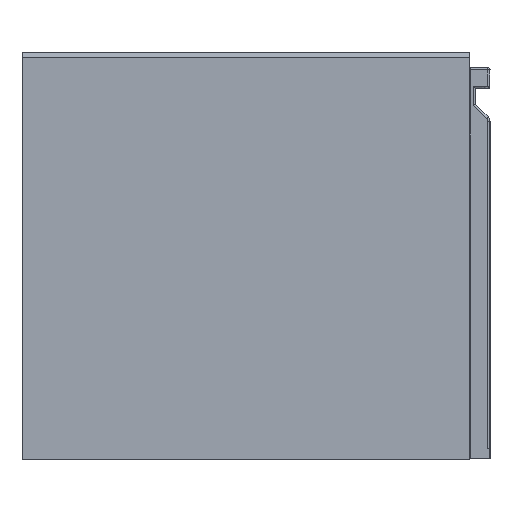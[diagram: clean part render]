
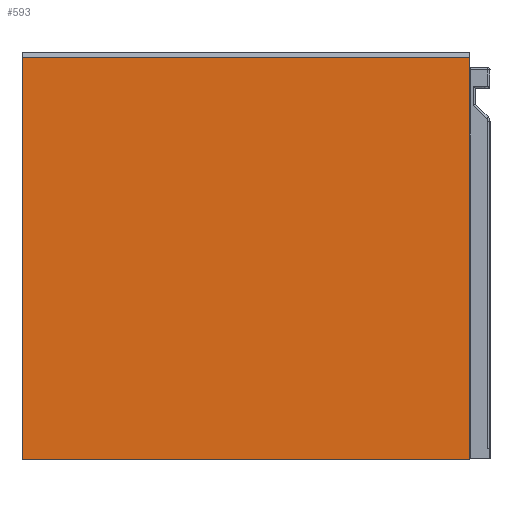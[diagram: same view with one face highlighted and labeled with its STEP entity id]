
A CAD part, left-side view. The second image highlights one B-rep face of the part: STEP entity #593.
In plain terms, the highlighted planar face has unit normal (-1, 0, 0).
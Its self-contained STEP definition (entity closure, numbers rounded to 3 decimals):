
#593=ADVANCED_FACE('',(#1452),#14527,.T.);
#1452=FACE_OUTER_BOUND('',#2311,.T.);
#2311=EDGE_LOOP('',(#3319,#3320,#3321,#3322));
#3319=ORIENTED_EDGE('',*,*,#8004,.F.);
#3320=ORIENTED_EDGE('',*,*,#8005,.T.);
#3321=ORIENTED_EDGE('',*,*,#8006,.T.);
#3322=ORIENTED_EDGE('',*,*,#8007,.T.);
#8004=EDGE_CURVE('',#12706,#12703,#10919,.T.);
#8005=EDGE_CURVE('',#12706,#12707,#10920,.T.);
#8006=EDGE_CURVE('',#12707,#12708,#10921,.T.);
#8007=EDGE_CURVE('',#12708,#12703,#10922,.T.);
#10919=B_SPLINE_CURVE_WITH_KNOTS('',1,(#17343,#17344),.UNSPECIFIED.,.F.,
 .F.,(2,2),(0.,430.),.UNSPECIFIED.);
#10920=B_SPLINE_CURVE_WITH_KNOTS('',1,(#17345,#17346),.UNSPECIFIED.,.F.,
 .F.,(2,2),(-387.,0.),.UNSPECIFIED.);
#10921=B_SPLINE_CURVE_WITH_KNOTS('',1,(#17347,#17348),.UNSPECIFIED.,.F.,
 .F.,(2,2),(-430.,0.),.UNSPECIFIED.);
#10922=B_SPLINE_CURVE_WITH_KNOTS('',1,(#17349,#17350),.UNSPECIFIED.,.F.,
 .F.,(2,2),(0.,387.),.UNSPECIFIED.);
#12703=VERTEX_POINT('',#17327);
#12706=VERTEX_POINT('',#17330);
#12707=VERTEX_POINT('',#17331);
#12708=VERTEX_POINT('',#17332);
#14527=PLANE('',#15703);
#15703=AXIS2_PLACEMENT_3D('',#17321,#16402,$);
#16402=DIRECTION('',(-1.,0.,0.));
#17321=CARTESIAN_POINT('',(3756.937,-4489.169,-1904.111));
#17327=CARTESIAN_POINT('',(3756.937,-4446.049,-1478.291));
#17330=CARTESIAN_POINT('',(3756.937,-4016.049,-1478.291));
#17331=CARTESIAN_POINT('',(3756.937,-4016.049,-1865.291));
#17332=CARTESIAN_POINT('',(3756.937,-4446.049,-1865.291));
#17343=CARTESIAN_POINT('',(3756.937,-4016.049,-1478.291));
#17344=CARTESIAN_POINT('',(3756.937,-4446.049,-1478.291));
#17345=CARTESIAN_POINT('',(3756.937,-4016.049,-1478.291));
#17346=CARTESIAN_POINT('',(3756.937,-4016.049,-1865.291));
#17347=CARTESIAN_POINT('',(3756.937,-4016.049,-1865.291));
#17348=CARTESIAN_POINT('',(3756.937,-4446.049,-1865.291));
#17349=CARTESIAN_POINT('',(3756.937,-4446.049,-1865.291));
#17350=CARTESIAN_POINT('',(3756.937,-4446.049,-1478.291));
